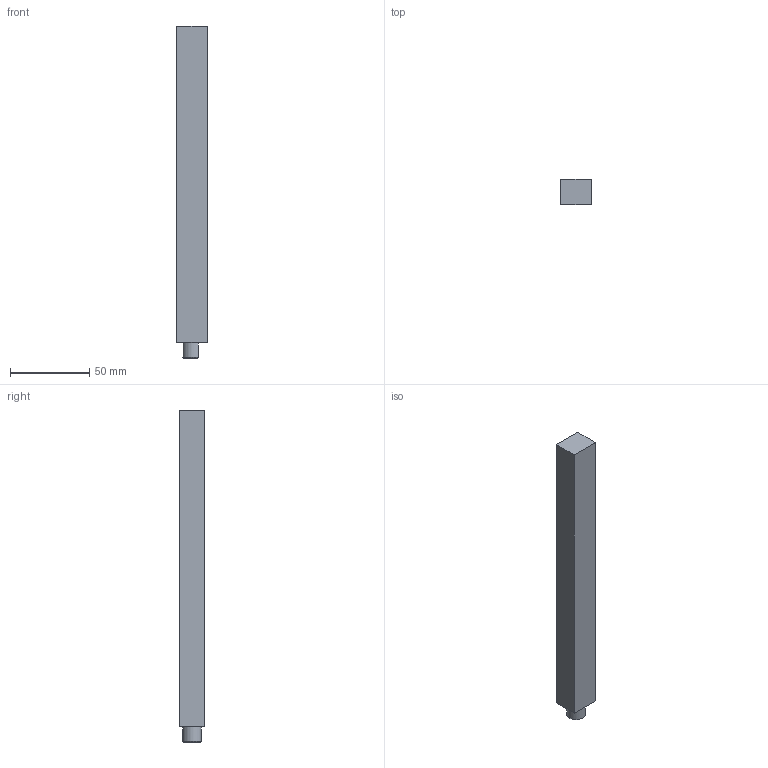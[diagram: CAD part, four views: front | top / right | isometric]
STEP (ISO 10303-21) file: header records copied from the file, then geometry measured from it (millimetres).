
FILE_DESCRIPTION (( 'STEP AP214' ), '1' );
FILE_NAME ('KKPHF Pin S_-_12-200.step', '2024-02-07T08:54:01', ( '' ), ( '' ), 'SwSTEP 2.0', 'SolidWorks 2020', '' );
FILE_SCHEMA (( 'AUTOMOTIVE_DESIGN' ));
Length unit declared in the file: millimetre
Products named in the file (1): KKPHF  Pin S_-_12-200
Bounding box: 19 x 16 x 209.9 mm (x, y, z)
Volume: 61495.4 mm3; surface area: 15186.8 mm2
Topology: 1 solids, 1 shells, 15 faces, 31 edges, 19 vertices
Faces by surface type: plane 9, cylinder 3, cone 2, torus 1
Full cylindrical faces by diameter (mm): 5 x1
Entity records: 425 total; most frequent: CARTESIAN_POINT 78, DIRECTION 62, ORIENTED_EDGE 56, EDGE_CURVE 28, AXIS2_PLACEMENT_3D 22, EDGE_LOOP 18, LINE 18, VERTEX_POINT 18
